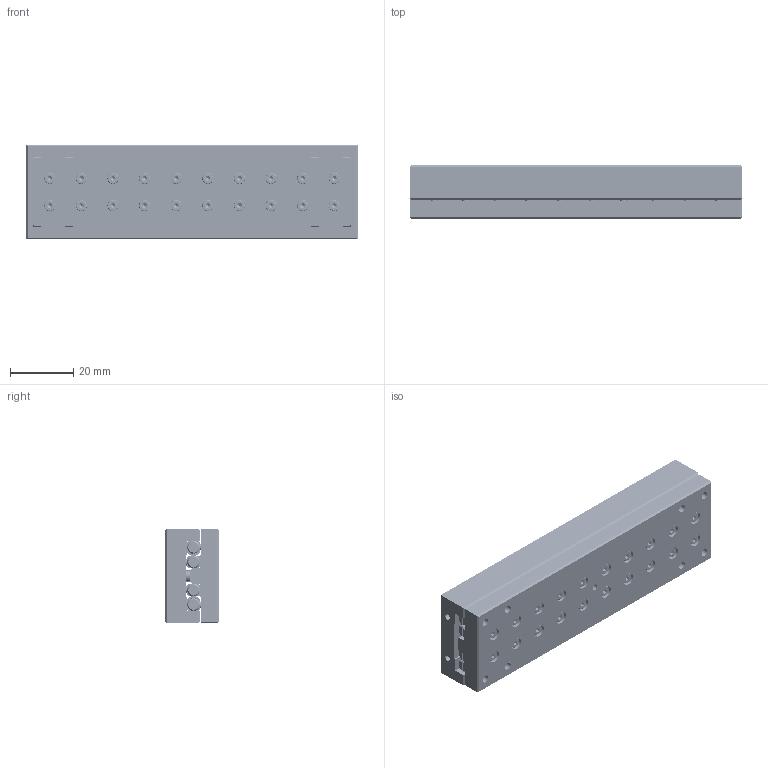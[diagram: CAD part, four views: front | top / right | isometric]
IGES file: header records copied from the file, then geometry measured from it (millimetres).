
Start section: SolidWorks IGES file using analytic representation for surfaces
Global section: file name: C:\Documents and Settings\IanO.IANOHOME\My Documents\Wix and Auto CAD Work\CAD Models\Parametric Models\Auto Models\L1020\L1020_IGES\L1020.030-105.igs; native system: SolidWorks 2009; preprocessor: SolidWorks 2009; author: IanO; date: 110922.162151; units: millimetre
Bounding box: 105 x 17 x 30 mm (x, y, z)
Surface area: 34956.3 mm2 (no closed solid volume)
Topology: 0 solids, 0 shells, 2548 faces, 31544 edges, 31444 vertices
Faces by surface type: bspline 1552, revolution 996
